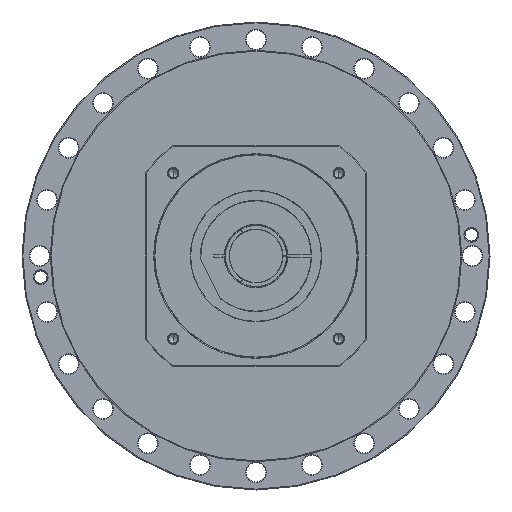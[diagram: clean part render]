
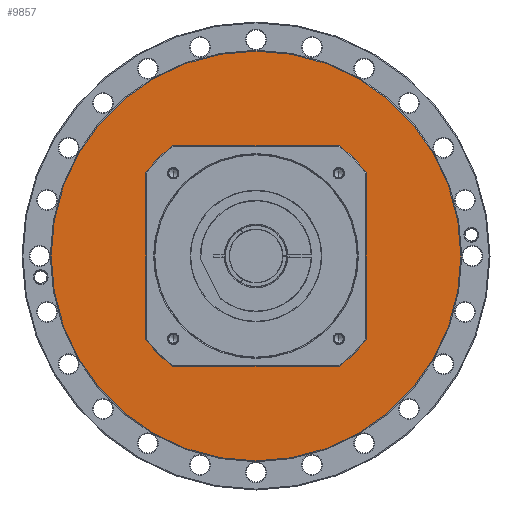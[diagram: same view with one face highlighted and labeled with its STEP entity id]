
A CAD part, left-side view. The second image highlights one B-rep face of the part: STEP entity #9857.
In plain terms, the highlighted planar face has unit normal (-1, 0, 0) as drawn and (1, 0, 0) by its records, which use the part's own axes.
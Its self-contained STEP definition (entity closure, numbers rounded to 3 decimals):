
#9510=CARTESIAN_POINT('',(-5.5,0.,0.));
#9511=DIRECTION('',(-1.,0.,0.));
#9512=DIRECTION('',(0.,-1.,0.));
#9513=AXIS2_PLACEMENT_3D('',#9510,#9511,#9512);
#9515=CARTESIAN_POINT('',(-5.5,0.,0.));
#9516=DIRECTION('',(-1.,0.,0.));
#9517=DIRECTION('',(0.,1.,0.));
#9518=AXIS2_PLACEMENT_3D('',#9515,#9516,#9517);
#9520=CARTESIAN_POINT('',(-5.5,0.,0.));
#9521=DIRECTION('',(-1.,0.,0.));
#9522=DIRECTION('',(0.,-1.,0.));
#9523=AXIS2_PLACEMENT_3D('',#9520,#9521,#9522);
#9525=CARTESIAN_POINT('',(-5.5,0.,0.));
#9526=DIRECTION('',(-1.,0.,0.));
#9527=DIRECTION('',(0.,1.,0.));
#9528=AXIS2_PLACEMENT_3D('',#9525,#9526,#9527);
#9688=CARTESIAN_POINT('',(-5.5,-232.,0.));
#9689=CARTESIAN_POINT('',(-5.5,232.,0.));
#9690=VERTEX_POINT('',#9688);
#9691=VERTEX_POINT('',#9689);
#9708=CARTESIAN_POINT('',(-5.5,-111.5,0.));
#9709=CARTESIAN_POINT('',(-5.5,111.5,0.));
#9710=VERTEX_POINT('',#9708);
#9711=VERTEX_POINT('',#9709);
#9842=CARTESIAN_POINT('',(-5.5,0.,0.));
#9843=DIRECTION('',(1.,0.,0.));
#9844=DIRECTION('',(0.,-1.,0.));
#9845=AXIS2_PLACEMENT_3D('',#9842,#9843,#9844);
#9846=PLANE('',#9845);
#9848=ORIENTED_EDGE('',*,*,#9847,.T.);
#9850=ORIENTED_EDGE('',*,*,#9849,.T.);
#9851=EDGE_LOOP('',(#9848,#9850));
#9852=FACE_OUTER_BOUND('',#9851,.F.);
#9853=ORIENTED_EDGE('',*,*,#9836,.F.);
#9854=ORIENTED_EDGE('',*,*,#9822,.F.);
#9855=EDGE_LOOP('',(#9853,#9854));
#9856=FACE_BOUND('',#9855,.F.);
#9857=ADVANCED_FACE('',(#9852,#9856),#9846,.T.);
#9514=CIRCLE('',#9513,111.5);
#9519=CIRCLE('',#9518,111.5);
#9524=CIRCLE('',#9523,232.);
#9529=CIRCLE('',#9528,232.);
#9822=EDGE_CURVE('',#9711,#9710,#9519,.T.);
#9836=EDGE_CURVE('',#9710,#9711,#9514,.T.);
#9847=EDGE_CURVE('',#9690,#9691,#9524,.T.);
#9849=EDGE_CURVE('',#9691,#9690,#9529,.T.);
